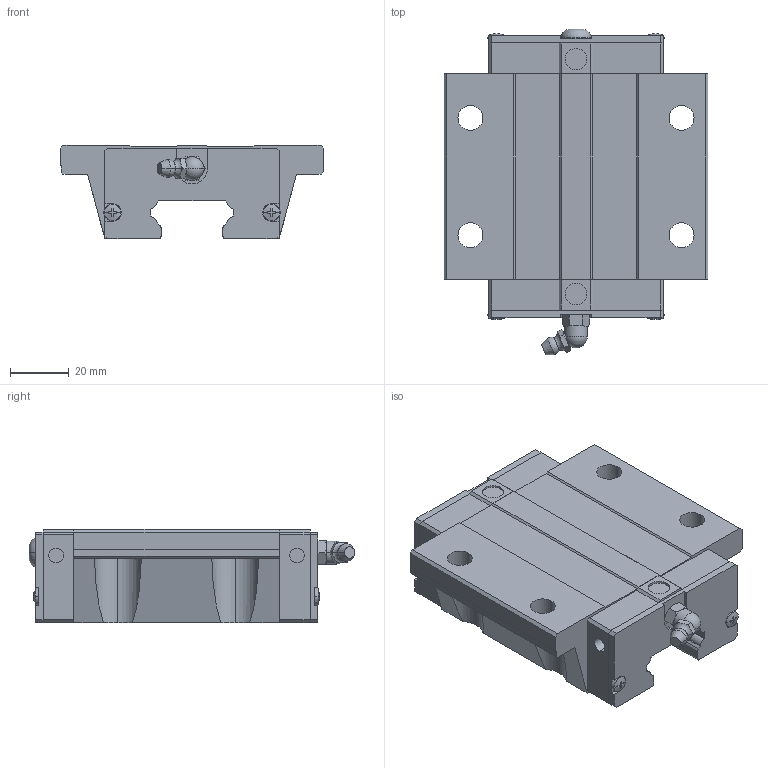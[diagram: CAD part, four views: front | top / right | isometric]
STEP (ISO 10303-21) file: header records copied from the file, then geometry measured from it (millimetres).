
FILE_DESCRIPTION(('no description'),'unknown implementation level');
FILE_NAME('QEW30CC_Z0_H_SS_27.stp',' ',('HIWIN GmbH'),('CADClick - KiM GmbH - www.kimweb.de'),'unknown preprocess','ACIS','unknown authorization');
FILE_SCHEMA(('automotive_design'));
Length unit declared in the file: millimetre
Products named in the file (1): QEW30CC Z0 H SS
Bounding box: 90 x 111.01 x 32 mm (x, y, z)
Volume: 172690.7 mm3; surface area: 30885.4 mm2
Topology: 1 solids, 5 shells, 364 faces, 983 edges, 637 vertices
Faces by surface type: plane 218, cylinder 88, cone 38, torus 18, sphere 2
Entity records: 22792 total; most frequent: CARTESIAN_POINT 2679, STYLED_ITEM 1983, PRESENTATION_STYLE_ASSIGNMENT 1983, COLOUR_RGB 1983, ORIENTED_EDGE 1962, DIRECTION 1860, EDGE_CURVE 981, CURVE_STYLE 981
